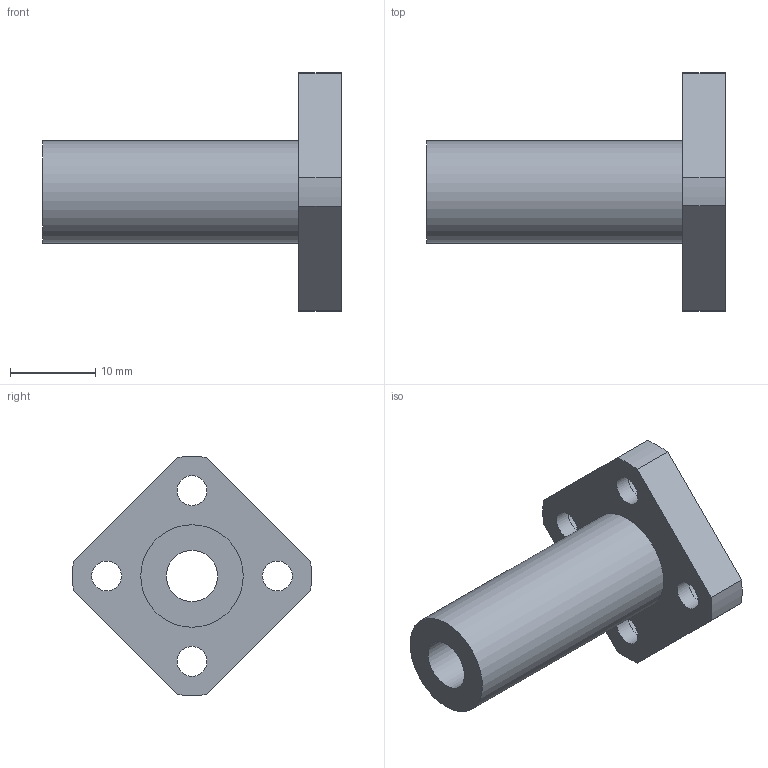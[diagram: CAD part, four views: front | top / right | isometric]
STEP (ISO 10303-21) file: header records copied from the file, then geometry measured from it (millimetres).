
FILE_DESCRIPTION(/* description */ ('Unknown'),/* implementation_level */ '2;1');
FILE_NAME(/* name */ 'LMK6LUU',/* time_stamp */ '2025-02-04T10:35:22+08:00',/* author */ ('Unknown'),/* organization */ ('Unknown'),/* preprocessor_version */ 'ST-DEVELOPER v18.102',/* originating_system */ 'Solid Edge',/* authorisation */ 'Unknown');
FILE_SCHEMA (('AUTOMOTIVE_DESIGN {1 0 10303 214 3 1 1}'));
Length unit declared in the file: millimetre
Products named in the file (1): LMK6LUU
Bounding box: 35 x 27.98 x 27.98 mm (x, y, z)
Volume: 4349.2 mm3; surface area: 3335.1 mm2
Topology: 1 solids, 1 shells, 25 faces, 58 edges, 40 vertices
Faces by surface type: cylinder 14, plane 11
Full cylindrical faces by diameter (mm): 3.5 x4, 6 x5, 12 x1
Entity records: 696 total; most frequent: DIRECTION 124, CARTESIAN_POINT 106, ORIENTED_EDGE 88, AXIS2_PLACEMENT_3D 54, EDGE_LOOP 50, FACE_BOUND 50, EDGE_CURVE 44, VERTEX_POINT 36
